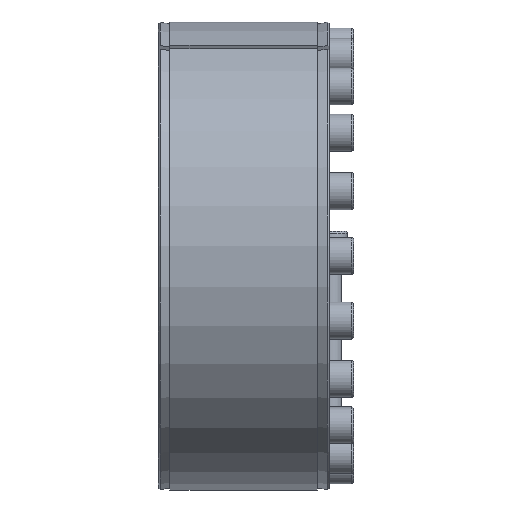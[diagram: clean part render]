
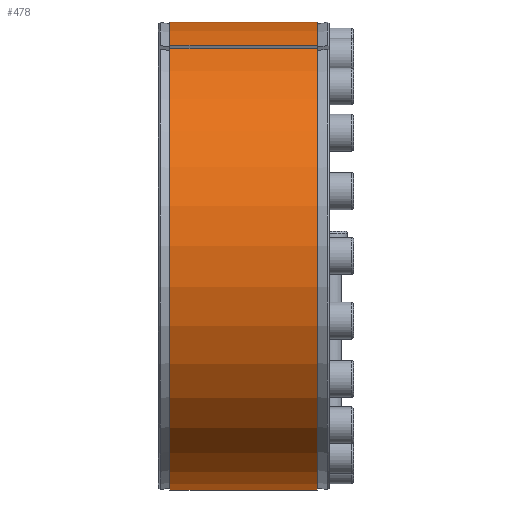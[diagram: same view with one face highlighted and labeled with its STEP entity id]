
A CAD part, left-side view. The second image highlights one B-rep face of the part: STEP entity #478.
In plain terms, the highlighted cylindrical face has radius 152.5 mm (diameter 305 mm), a partial arc.
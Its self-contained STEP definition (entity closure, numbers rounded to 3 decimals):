
#478 = ADVANCED_FACE( '', ( #852 ), #853, .T. );
#852 = FACE_OUTER_BOUND( '', #1264, .T. );
#853 = CYLINDRICAL_SURFACE( '', #1265, 152.5 );
#1264 = EDGE_LOOP( '', ( #1986, #1987, #1988, #1989 ) );
#1265 = AXIS2_PLACEMENT_3D( '', #1990, #1991, #1992 );
#1986 = ORIENTED_EDGE( '', *, *, #2696, .T. );
#1987 = ORIENTED_EDGE( '', *, *, #2655, .T. );
#1988 = ORIENTED_EDGE( '', *, *, #2724, .F. );
#1989 = ORIENTED_EDGE( '', *, *, #2828, .T. );
#1990 = CARTESIAN_POINT( '', ( 0., -60., 0. ) );
#1991 = DIRECTION( '', ( 0., 1., 0. ) );
#1992 = DIRECTION( '', ( 0., 0., -1. ) );
#2655 = EDGE_CURVE( '', #3030, #3028, #3031, .T. );
#2696 = EDGE_CURVE( '', #3106, #3030, #3107, .T. );
#2724 = EDGE_CURVE( '', #3158, #3028, #3159, .T. );
#2828 = EDGE_CURVE( '', #3158, #3106, #3336, .F. );
#3028 = VERTEX_POINT( '', #3565 );
#3030 = VERTEX_POINT( '', #3568 );
#3031 = LINE( '', #3569, #3570 );
#3106 = VERTEX_POINT( '', #3670 );
#3107 = CIRCLE( '', #3671, 152.5 );
#3158 = VERTEX_POINT( '', #3730 );
#3159 = CIRCLE( '', #3731, 152.5 );
#3336 = LINE( '', #4462, #4463 );
#3565 = CARTESIAN_POINT( '', ( -66.997, 7.5, 136.995 ) );
#3568 = CARTESIAN_POINT( '', ( -66.997, 103.5, 136.995 ) );
#3569 = CARTESIAN_POINT( '', ( -66.997, -60., 136.995 ) );
#3570 = VECTOR( '', #4640, 1000. );
#3670 = CARTESIAN_POINT( '', ( -71.452, 103.5, 134.725 ) );
#3671 = AXIS2_PLACEMENT_3D( '', #4732, #4733, #4734 );
#3730 = CARTESIAN_POINT( '', ( -71.452, 7.5, 134.725 ) );
#3731 = AXIS2_PLACEMENT_3D( '', #4806, #4807, #4808 );
#4462 = CARTESIAN_POINT( '', ( -71.452, -60., 134.725 ) );
#4463 = VECTOR( '', #5039, 1000. );
#4640 = DIRECTION( '', ( 0., -1., 0. ) );
#4732 = CARTESIAN_POINT( '', ( 0., 103.5, 0. ) );
#4733 = DIRECTION( '', ( 0., -1., 0. ) );
#4734 = DIRECTION( '', ( 0., 0., -1. ) );
#4806 = CARTESIAN_POINT( '', ( 0., 7.5, 0. ) );
#4807 = DIRECTION( '', ( 0., -1., 0. ) );
#4808 = DIRECTION( '', ( 0., 0., -1. ) );
#5039 = DIRECTION( '', ( 0., -1., 0. ) );
